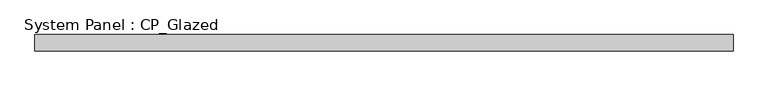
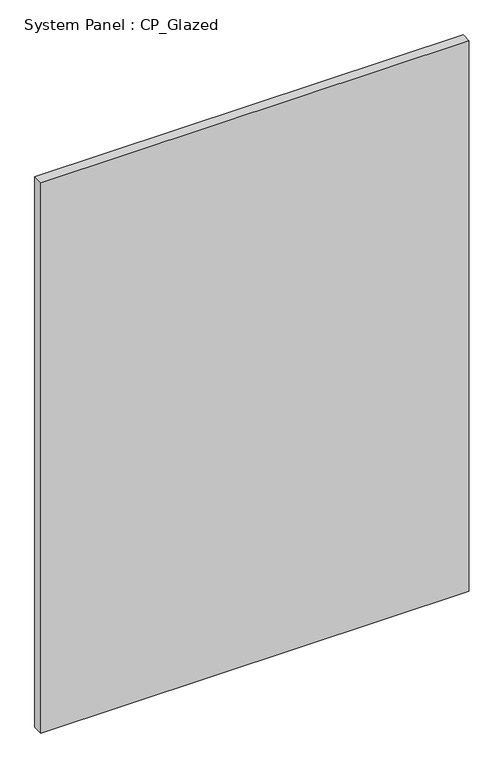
"""IFC4 building model written with IfcOpenShell, lengths in millimetres: plate geometry, System Panel : CP_Glazed."""

from ifc_helpers import new_model, si_unit, origin, origin_with_axes, place, context, project, spatial, polyline, outline, extrude, source, transform, mapped, element, save


def system_panel_cp_glazed_49e94a44(model_context):
    return source(origin(), model_context, "Body", "SweptSolid", [
        extrude(outline(polyline([(544.7770833, -44.45), (-544.7770833, -44.45), (-544.7770833, -19.05), (544.7770833, -19.05), (544.7770833, -44.45)])), origin_with_axes(), (0.0, 0.0, 1.0), 1479.55),
    ])


if __name__ == "__main__":
    model = new_model("IFC4")
    model_context = context("Model", 3, world=origin())
    ifc_project = project(units=[si_unit("LENGTHUNIT", "METRE", prefix="MILLI")], contexts=[model_context])
    site = spatial("IfcSite", under=ifc_project)
    building = spatial("IfcBuilding", under=site)
    placement = place(None, origin())
    system_panel_cp_glazed_shape = system_panel_cp_glazed_49e94a44(model_context)
    element("IfcPlate", 1, ObjectType="System Panel : CP_Glazed", at=placement, inside=building, context=model_context, shape_type="MappedRepresentation", body=[
        mapped(system_panel_cp_glazed_shape, transform((0.0, 0.0, 0.0), x_axis=(1.0, 0.0, 0.0), y_axis=(0.0, 1.0, 0.0), z_axis=(0.0, 0.0, 1.0))),
    ])
    save(model, "model.ifc")
